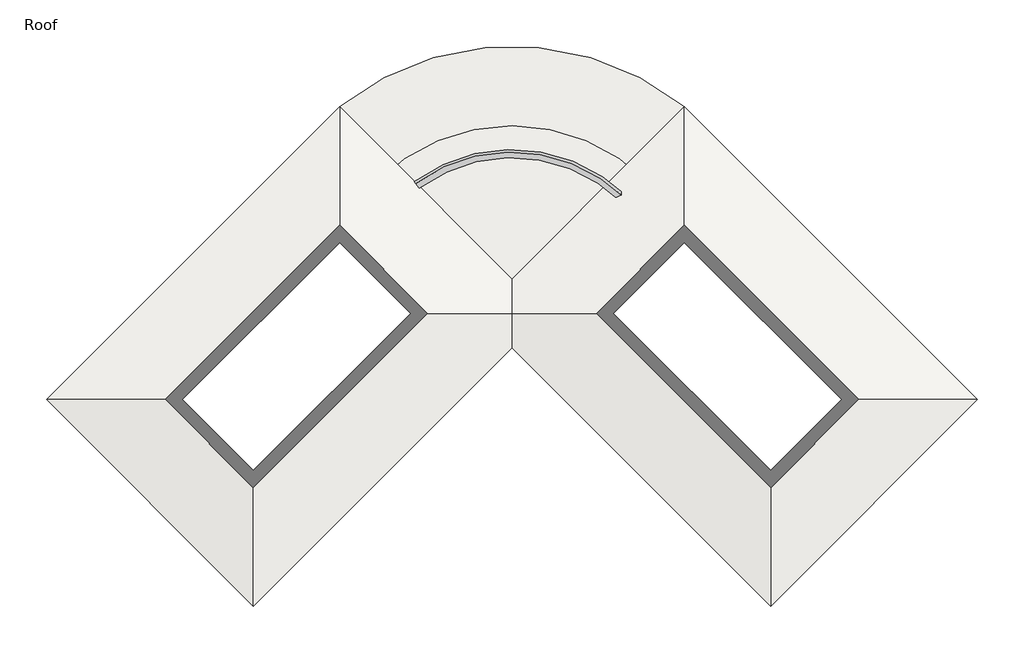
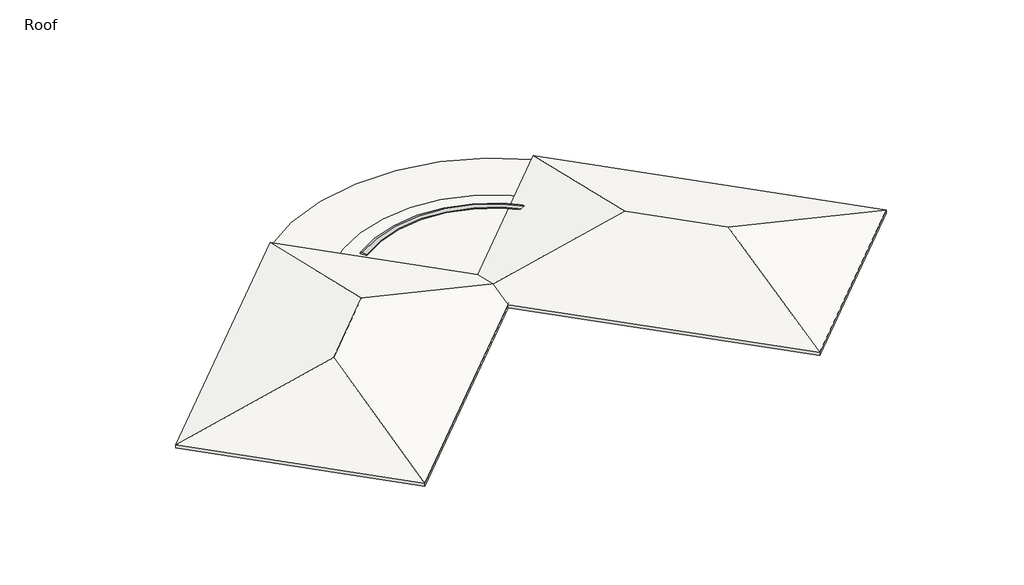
# One storey: 7 proxies, 4 roofs.
"""IFC4 building model written with IfcOpenShell, lengths in millimetres."""

import ifcopenshell
import ifcopenshell.guid

model = None  # the IFC model being written
_history = None  # IfcOwnerHistory: only IFC2X3 demands one
_inside = {}  # id of a spatial element -> (the spatial element, [elements in it])
_under = {}  # id of a project, library or spatial element -> (it, [spatial elements below it])
_declared = {}  # id of a project -> (the project, [libraries it declares])
_typed = {}  # id of a type object -> (the type object, [elements of that type])
_made_of = {}  # id of a material, layer set ... -> (it, [elements and type objects made of it])


def new_model(schema):
    """Start an empty IFC model of exactly this schema.

    Asked for "IFC4X3", IfcOpenShell would pick the latest addendum, in which some entities
    have other attributes; the version numbers below select the first issue.
    IFC2X3 requires an IfcOwnerHistory on every rooted entity: one is made here for all.
    """
    global model, _history
    if schema == "IFC4X3":
        model = ifcopenshell.file(schema_version=(4, 3, 0, 0))
    else:
        model = ifcopenshell.file(schema=schema)
    _inside.clear()
    _under.clear()
    _declared.clear()
    _typed.clear()
    _made_of.clear()
    _history = None
    if model.schema == "IFC2X3":
        org = make("IfcOrganization", Name="unknown")
        user = make(
            "IfcPersonAndOrganization",
            ThePerson=make("IfcPerson", FamilyName="unknown"),
            TheOrganization=org,
        )
        app = make(
            "IfcApplication",
            ApplicationDeveloper=org,
            Version="unknown",
            ApplicationFullName="unknown",
            ApplicationIdentifier="unknown",
        )
        _history = make(
            "IfcOwnerHistory",
            OwningUser=user,
            OwningApplication=app,
            ChangeAction="ADDED",
            CreationDate=0,
        )
    return model


def make(cls, **values):
    """One entity of the class cls with the attributes given. An attribute that is None is left unset."""
    return model.create_entity(
        cls, **{name: value for name, value in values.items() if value is not None}
    )


def rooted(cls, **values):
    """An entity with a GlobalId (a new one), such as an element, a storey or a relation."""
    return make(cls, GlobalId=ifcopenshell.guid.new(), OwnerHistory=_history, **values)


def si_unit(unit_type, name, prefix=None):
    """IfcSIUnit, for example si_unit("LENGTHUNIT", "METRE", prefix="MILLI")."""
    return make("IfcSIUnit", UnitType=unit_type, Prefix=prefix, Name=name)


def assignment(units):
    """IfcUnitAssignment: the units of a project."""
    return None if units is None else make("IfcUnitAssignment", Units=units)


def point(xyz):
    """IfcCartesianPoint."""
    return None if xyz is None else make("IfcCartesianPoint", Coordinates=xyz)


def direction(xyz):
    """IfcDirection."""
    return None if xyz is None else make("IfcDirection", DirectionRatios=xyz)


def frame(location, z_axis=None, x_axis=None):
    """IfcAxis2Placement3D, a coordinate frame: its origin and axes. An axis left out is left unset."""
    return make(
        "IfcAxis2Placement3D",
        Location=point(location),
        Axis=direction(z_axis),
        RefDirection=direction(x_axis),
    )


def frame_2d(location, x_axis=None):
    """IfcAxis2Placement2D, a coordinate frame in the plane: its origin and x axis."""
    return make(
        "IfcAxis2Placement2D", Location=point(location), RefDirection=direction(x_axis)
    )


def origin():
    """The frame at (0, 0, 0) with its axes left unset."""
    return frame((0.0, 0.0, 0.0))


def place(relative_to, where):
    """IfcLocalPlacement: puts the frame where relative to a parent placement (None: the world)."""
    return make(
        "IfcLocalPlacement", PlacementRelTo=relative_to, RelativePlacement=where
    )


def context(
    kind, dimensions, precision=None, world=None, true_north=None, identifier=None
):
    """IfcGeometricRepresentationContext, for example the 3D "Model" context."""
    return make(
        "IfcGeometricRepresentationContext",
        ContextIdentifier=identifier,
        ContextType=kind,
        CoordinateSpaceDimension=dimensions,
        Precision=precision,
        WorldCoordinateSystem=world,
        TrueNorth=true_north,
    )


def project(units=None, contexts=None):
    """IfcProject with its units and contexts."""
    return rooted(
        "IfcProject",
        Name="project",
        RepresentationContexts=contexts,
        UnitsInContext=assignment(units),
    )


def spatial(cls, under=None, at=None, **own):
    """A site, building, storey or space (cls), placed at a placement, below another one or the project."""
    s = rooted(cls, ObjectPlacement=at, **own)
    if under is not None:
        _under.setdefault(under.id(), (under, []))[1].append(s)
    return s


def polyline(points):
    """IfcPolyline through the points."""
    return make("IfcPolyline", Points=[point(p) for p in points])


def circle_curve(where, radius):
    """IfcCircle in the frame where."""
    return make("IfcCircle", Position=where, Radius=radius)


def trimmed(basis, trim1, trim2, sense, master):
    """IfcTrimmedCurve: the piece of a basis curve between two trims."""
    return make(
        "IfcTrimmedCurve",
        BasisCurve=basis,
        Trim1=trim1,
        Trim2=trim2,
        SenseAgreement=sense,
        MasterRepresentation=master,
    )


def segment(curve, same_sense, transition):
    """IfcCompositeCurveSegment."""
    return make(
        "IfcCompositeCurveSegment",
        Transition=transition,
        SameSense=same_sense,
        ParentCurve=curve,
    )


def composite_curve(segments, self_intersect=None):
    """IfcCompositeCurve: segments joined end to end."""
    return make("IfcCompositeCurve", Segments=segments, SelfIntersect=self_intersect)


def outline(outer, holes=None, kind="AREA"):
    """IfcArbitraryClosedProfileDef: a profile drawn as a closed curve; with holes, ...WithVoids."""
    if holes is None:
        return make("IfcArbitraryClosedProfileDef", ProfileType=kind, OuterCurve=outer)
    return make(
        "IfcArbitraryProfileDefWithVoids",
        ProfileType=kind,
        OuterCurve=outer,
        InnerCurves=holes,
    )


def extrude(swept, where, along, depth):
    """IfcExtrudedAreaSolid: the profile swept, set in the frame where, extruded along a direction by depth."""
    return make(
        "IfcExtrudedAreaSolid",
        SweptArea=swept,
        Position=where,
        ExtrudedDirection=direction(along),
        Depth=depth,
    )


def faces_of(points, faces, orient=None, outer=None):
    """IfcFace entities. A face is a list of loops; a loop is a list of indices into points, from 0.

    orient and outer hold one flag for each loop. By default every Orientation is true, the
    first loop of a face is its IfcFaceOuterBound and the others are IfcFaceBound.
    """
    made = []
    for i, loops in enumerate(faces):
        bounds = []
        for j, loop in enumerate(loops):
            is_outer = j == 0 if outer is None else outer[i][j]
            bounds.append(
                make(
                    "IfcFaceOuterBound" if is_outer else "IfcFaceBound",
                    Bound=make("IfcPolyLoop", Polygon=[points[k] for k in loop]),
                    Orientation=True if orient is None else orient[i][j],
                )
            )
        made.append(make("IfcFace", Bounds=bounds))
    return made


def faceted_brep(points, faces, orient=None, outer=None, voids=None):
    """IfcFacetedBrep: a solid bounded by flat faces; with voids (closed shells), ...WithVoids."""
    shared = [point(p) for p in points]
    hull = make("IfcClosedShell", CfsFaces=faces_of(shared, faces, orient, outer))
    if voids is None:
        return make("IfcFacetedBrep", Outer=hull)
    return make(
        "IfcFacetedBrepWithVoids",
        Outer=hull,
        Voids=[
            make(cls, CfsFaces=faces_of(shared, fs, o, b)) for cls, fs, o, b in voids
        ],
    )


def shape(context_of_items, identifier, shape_type, items):
    """IfcShapeRepresentation: the items that make up one representation, for example the "Body"."""
    return make(
        "IfcShapeRepresentation",
        ContextOfItems=context_of_items,
        RepresentationIdentifier=identifier,
        RepresentationType=shape_type,
        Items=items,
    )


def made_of(thing, what):
    """Note that an element or type object is made of a material, layer set ...; save() writes the relation."""
    if what is not None:
        _made_of.setdefault(what.id(), (what, []))[1].append(thing)
    return thing


def element(
    cls,
    number,
    at=None,
    inside=None,
    cuts=None,
    type_object=None,
    material=None,
    context=None,
    identifier="Body",
    shape_type=None,
    held_by="IfcProductDefinitionShape",
    body=None,
    shapes=None,
    **own,
):
    """One element of the class cls, such as IfcWall. Its Tag is "e" and its number.

    at: its placement. inside: the storey or other place that contains it. cuts: it is an
    opening in that element (IfcRelVoidsElement). A single representation is given by context,
    identifier, shape_type and body (its items); several are given by shapes. held_by: the class
    of the entity that holds the representations. save() writes the other relations.
    """
    e = rooted(cls, Tag="e%d" % number, ObjectPlacement=at, **own)
    if body is not None:
        shapes = [shape(context, identifier, shape_type, body)]
    if shapes is not None:
        e.Representation = make(held_by, Representations=shapes)
    if inside is not None:
        _inside.setdefault(inside.id(), (inside, []))[1].append(e)
    if cuts is not None:
        rooted(
            "IfcRelVoidsElement", RelatingBuildingElement=cuts, RelatedOpeningElement=e
        )
    if type_object is not None:
        _typed.setdefault(type_object.id(), (type_object, []))[1].append(e)
    return made_of(e, material)


def aggregate(whole, parts):
    """IfcRelAggregates: a whole, such as a stair, and the parts it consists of."""
    return rooted("IfcRelAggregates", RelatingObject=whole, RelatedObjects=parts)


def save(model, path):
    """Write the relations noted so far, then the file.

    IfcRelAggregates (storeys below a building ...), IfcRelContainedInSpatialStructure (elements
    in a storey), IfcRelDefinesByType, IfcRelAssociatesMaterial and IfcRelDeclares: one each for
    every whole, place, type object, material and project.
    """
    for whole, parts in _under.values():
        aggregate(whole, parts)
    for where, things in _inside.values():
        rooted(
            "IfcRelContainedInSpatialStructure",
            RelatedElements=things,
            RelatingStructure=where,
        )
    for kind, things in _typed.values():
        rooted("IfcRelDefinesByType", RelatedObjects=things, RelatingType=kind)
    for what, things in _made_of.values():
        rooted("IfcRelAssociatesMaterial", RelatedObjects=things, RelatingMaterial=what)
    for by, libraries in _declared.values():
        rooted("IfcRelDeclares", RelatingContext=by, RelatedDefinitions=libraries)
    model.write(path)


def plane_surface(at):
    """IfcPlane: the flat surface through the origin of the frame at, square to its z axis."""
    return make("IfcPlane", Position=at)


def cylinder_surface(at, radius):
    """IfcCylindricalSurface: all points at the distance radius from the z axis of the frame at."""
    return make("IfcCylindricalSurface", Position=at, Radius=radius)


def revolved_surface(curve, axis_point, axis_direction):
    """IfcSurfaceOfRevolution: the curve turned about the line through axis_point along axis_direction."""
    return make(
        "IfcSurfaceOfRevolution",
        SweptCurve=make("IfcArbitraryOpenProfileDef", ProfileType="CURVE", Curve=curve),
        AxisPosition=make("IfcAxis1Placement", Location=point(axis_point), Axis=direction(axis_direction)),
    )


def advanced_brep(points, edges, surfaces, faces):
    """IfcAdvancedBrep: a solid bounded by faces that lie on surfaces and meet in shared edges.

    An edge is (start, end): straight between two places in points (the first is 0);
    or (start, end, curve); or (start, end, curve, False) where it runs against its curve.
    A face is (place in surfaces, loops), or (place, loops, False) where it looks against
    its surface's normal. A loop lists edges by number (the first is 1), with a minus sign
    where the edge is run from its end to its start. The first loop is the outer one.
    """
    corners = [point(p) for p in points]
    vertices = [make("IfcVertexPoint", VertexGeometry=c) for c in corners]
    made = []
    for start, end, *more in edges:
        made.append(
            make(
                "IfcEdgeCurve",
                EdgeStart=vertices[start],
                EdgeEnd=vertices[end],
                EdgeGeometry=more[0] if more else make("IfcPolyline", Points=[corners[start], corners[end]]),
                SameSense=more[1] if len(more) > 1 else True,
            )
        )
    hull = []
    for where, loops, *sense in faces:
        bounds = []
        for j, loop in enumerate(loops):
            ring = [make("IfcOrientedEdge", EdgeElement=made[abs(k) - 1], Orientation=k > 0) for k in loop]
            bounds.append(
                make(
                    "IfcFaceOuterBound" if j == 0 else "IfcFaceBound",
                    Bound=make("IfcEdgeLoop", EdgeList=ring),
                    Orientation=True,
                )
            )
        hull.append(make("IfcAdvancedFace", Bounds=bounds, FaceSurface=surfaces[where], SameSense=sense[0] if sense else True))
    return make("IfcAdvancedBrep", Outer=make("IfcClosedShell", CfsFaces=hull))


model = new_model("IFC4")

# Units and contexts
model_context = context("Model", 3, world=origin())
ifc_project = project(units=[si_unit("LENGTHUNIT", "METRE", prefix="MILLI")], contexts=[model_context])

# Site, building, storey
site = spatial("IfcSite", under=ifc_project)
building = spatial("IfcBuilding", under=site)
storey = spatial("IfcBuildingStorey", under=building, Name="Roof", Elevation=4572.0)

# Proxies
placement = place(None, origin())
element("IfcBuildingElementProxy", 1, Name="Wall Sweeps", at=placement, inside=storey, context=model_context, shape_type="Brep", body=[
    faceted_brep([(4057.9485283, 9339.6949534, 4635.5), (3860.3828937, 9537.2605881, 4673.6), (3770.5803325, 9627.0631493, 4635.5), (3770.5803325, 9627.0631493, 4572.0), (4057.9485283, 9339.6949534, 4572.0), (5753.0175119, 11034.763937, 4635.5), (5753.0175119, 11034.763937, 4572.0), (5753.0175119, 11609.5003287, 4572.0), (5753.0175119, 11609.5003287, 4635.5), (5753.0175119, 11429.8952063, 4673.6)], [[[0, 1, 2, 3, 4]], [[5, 6, 7, 8, 9]], [[1, 0, 5, 9]], [[2, 1, 9, 8]], [[3, 2, 8, 7]], [[4, 3, 7, 6]], [[0, 4, 6, 5]]]),
])
element("IfcBuildingElementProxy", 2, Name="Wall Sweeps", at=placement, inside=storey, context=model_context, shape_type="Brep", body=[
    faceted_brep([(5753.0175119, 11034.763937, 4635.5), (5753.0175119, 11429.8952063, 4673.6), (5753.0175119, 11609.5003287, 4635.5), (5753.0175119, 11609.5003287, 4572.0), (5753.0175119, 11034.763937, 4572.0), (18145.770959, -1357.9895101, 4635.5), (18145.770959, -1357.9895101, 4572.0), (18720.5073507, -1357.9895101, 4572.0), (18720.5073507, -1357.9895101, 4635.5), (18540.9022283, -1357.9895101, 4673.6)], [[[0, 1, 2, 3, 4]], [[5, 6, 7, 8, 9]], [[1, 0, 5, 9]], [[2, 1, 9, 8]], [[3, 2, 8, 7]], [[4, 3, 7, 6]], [[0, 4, 6, 5]]]),
])
element("IfcBuildingElementProxy", 3, Name="Wall Sweeps", at=placement, inside=storey, context=model_context, shape_type="Brep", body=[
    faceted_brep([(18145.770959, -1357.9895101, 4635.5), (18540.9022283, -1357.9895101, 4673.6), (18720.5073507, -1357.9895101, 4635.5), (18720.5073507, -1357.9895101, 4572.0), (18145.770959, -1357.9895101, 4572.0), (9918.7338201, -9585.026649, 4635.5), (9918.7338201, -9585.026649, 4572.0), (9938.9393964, -9605.2322253, 4572.0), (10188.1415037, -9854.4343326, 4572.0), (10206.102016, -9872.3948449, 4572.0), (10206.102016, -9872.3948449, 4635.5), (10116.2994547, -9782.5922837, 4673.6)], [[[0, 1, 2, 3, 4]], [[5, 6, 7, 8, 9, 10, 11]], [[1, 0, 5, 11]], [[2, 1, 11, 10]], [[3, 2, 10, 9]], [[4, 3, 9, 8, 7, 6]], [[0, 4, 6, 5]]]),
])
element("IfcBuildingElementProxy", 4, Name="Wall Sweeps", at=placement, inside=storey, context=model_context, shape_type="Brep", body=[
    faceted_brep([(-15654.7905487, -9585.026649, 4635.5), (-15852.3561834, -9782.5922837, 4673.6), (-15942.1587446, -9872.3948449, 4635.5), (-15942.1587446, -9872.3948449, 4572.0), (-15924.1982323, -9854.4343326, 4572.0), (-15674.996125, -9605.2322253, 4572.0), (-15654.7905487, -9585.026649, 4572.0), (-23881.8276876, -1357.9895101, 4635.5), (-23881.8276876, -1357.9895101, 4572.0), (-24456.5640794, -1357.9895101, 4572.0), (-24456.5640794, -1357.9895101, 4635.5), (-24276.9589569, -1357.9895101, 4673.6)], [[[0, 1, 2, 3, 4, 5, 6]], [[7, 8, 9, 10, 11]], [[1, 0, 7, 11]], [[2, 1, 11, 10]], [[3, 2, 10, 9]], [[6, 5, 4, 3, 9, 8]], [[0, 6, 8, 7]]]),
])
element("IfcBuildingElementProxy", 5, Name="Wall Sweeps", at=placement, inside=storey, context=model_context, shape_type="Brep", body=[
    faceted_brep([(-23881.8276876, -1357.9895101, 4635.5), (-24276.9589569, -1357.9895101, 4673.6), (-24456.5640794, -1357.9895101, 4635.5), (-24456.5640794, -1357.9895101, 4572.0), (-23881.8276876, -1357.9895101, 4572.0), (-11489.0742405, 11034.763937, 4635.5), (-11489.0742405, 11034.763937, 4572.0), (-11489.0742405, 11609.5003287, 4572.0), (-11489.0742405, 11609.5003287, 4635.5), (-11489.0742405, 11429.8952063, 4673.6)], [[[0, 1, 2, 3, 4]], [[5, 6, 7, 8, 9]], [[1, 0, 5, 9]], [[2, 1, 9, 8]], [[3, 2, 8, 7]], [[4, 3, 7, 6]], [[0, 4, 6, 5]]]),
])
element("IfcBuildingElementProxy", 6, Name="Wall Sweeps", at=placement, inside=storey, context=model_context, shape_type="Brep", body=[
    faceted_brep([(-11489.0742405, 11034.763937, 4635.5), (-11489.0742405, 11429.8952063, 4673.6), (-11489.0742405, 11609.5003287, 4635.5), (-11489.0742405, 11609.5003287, 4572.0), (-11489.0742405, 11034.763937, 4572.0), (-8931.8939077, 8477.5836041, 4635.5), (-8931.8939077, 8477.5836041, 4572.0), (-8911.6883314, 8497.7891804, 4572.0), (-8662.486224, 8746.9912878, 4572.0), (-8644.5257118, 8764.9518, 4572.0), (-8644.5257118, 8764.9518, 4635.5), (-8734.328273, 8675.1492388, 4673.6), (-8836.2976328, 8573.179879, 4653.9354839), (-8911.6883314, 8497.7891804, 4639.3965909)], [[[0, 1, 2, 3, 4]], [[5, 6, 7, 8, 9, 10, 11, 12, 13]], [[1, 0, 5, 13, 12, 11]], [[2, 1, 11, 10]], [[3, 2, 10, 9]], [[4, 3, 9, 8, 7, 6]], [[0, 4, 6, 5]]]),
])
element("IfcBuildingElementProxy", 7, Name="Wall Sweeps", at=placement, inside=storey, context=model_context, shape_type="AdvancedBrep", body=[
    advanced_brep(
    [(-7507.26102, 9233.8641208, 4635.5), (-7672.4116971, 9459.2296325, 4673.6), (-7747.4801867, 9561.6685015, 4635.5), (-7747.4801867, 9561.6685015, 4572.0), (-7507.26102, 9233.8641208, 4572.0), (2658.1675575, 8476.4427105, 4635.5), (2658.1675575, 8476.4427105, 4572.0), (2944.3136246, 8765.0278596, 4572.0), (2944.3136246, 8765.0278596, 4635.5), (2854.8929786, 8674.8450005, 4673.6)],
    [
        (0, 1),
        (1, 2),
        (2, 3),
        (3, 4),
        (4, 0),
        (5, 6),
        (6, 7),
        (7, 8),
        (8, 9),
        (9, 5),
        (9, 1, circle_curve(frame((-2868.0283643, 2903.1420194, 4673.6), z_axis=(0.0, 0.0, 1.0), x_axis=(-0.591090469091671, 0.8066052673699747, 0.0)), 8128.0)),
        (0, 5, circle_curve(frame((-2868.0283643, 2903.1420194, 4635.5), z_axis=(0.0, 0.0, -1.0), x_axis=(-0.591090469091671, 0.8066052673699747, 0.0)), 7848.6)),
        (8, 2, circle_curve(frame((-2868.0283643, 2903.1420194, 4635.5), z_axis=(0.0, 0.0, 1.0), x_axis=(-0.591090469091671, 0.8066052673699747, 0.0)), 8255.0)),
        (7, 3, circle_curve(frame((-2868.0283643, 2903.1420194, 4572.0), z_axis=(0.0, 0.0, 1.0), x_axis=(-0.591090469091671, 0.8066052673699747, 0.0)), 8255.0)),
        (6, 4, circle_curve(frame((-2868.0283643, 2903.1420194, 4572.0), z_axis=(0.0, 0.0, 1.0), x_axis=(-0.591090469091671, 0.8066052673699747, 0.0)), 7848.6)),
    ],
    [
        plane_surface(frame((-2868.0283643, 2903.1420194, 4572.0), z_axis=(-0.8066052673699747, -0.591090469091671, 0.0), x_axis=(-0.591090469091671, 0.8066052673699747, 0.0))),
        plane_surface(frame((-2868.0283643, 2903.1420194, 4572.0), z_axis=(0.7101012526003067, -0.704099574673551, 0.0), x_axis=(0.704099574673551, 0.7101012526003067, 0.0))),
        revolved_surface(polyline([(-7507.26102, 9233.8641208, 4635.5), (-7672.4116971, 9459.2296325, 4673.6)]), (-2868.0283643, 2903.1420194, 4572.0), (0.0, 0.0, -1.0)),
        revolved_surface(polyline([(-7672.4116971, 9459.2296325, 4673.6), (-7747.4801867, 9561.6685015, 4635.5)]), (-2868.0283643, 2903.1420194, 4572.0), (0.0, 0.0, -1.0)),
        cylinder_surface(frame((-2868.0283643, 2903.1420194, 4572.0), z_axis=(0.0, 0.0, -1.0), x_axis=(-0.591090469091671, 0.8066052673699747, 0.0)), 8255.0),
        plane_surface(frame((-2868.0283643, 2903.1420194, 4572.0), z_axis=(0.0, 0.0, -1.0), x_axis=(-0.591090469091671, 0.8066052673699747, 0.0))),
        revolved_surface(polyline([(-7507.261020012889, 9233.864120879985, 4572.0), (-7507.261020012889, 9233.864120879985, 4635.5)]), (-2868.0283643, 2903.1420194, 4572.0), (0.0, 0.0, -1.0)),
    ],
    [
        (0, [[1, 2, 3, 4, 5]]),
        (1, [[6, 7, 8, 9, 10]]),
        (2, [[11, -1, 12, -10]]),
        (3, [[13, -2, -11, -9]]),
        (4, [[14, -3, -13, -8]]),
        (5, [[15, -4, -14, -7]]),
        (6, [[-12, -5, -15, -6]]),
    ],
),
])

# Roofs
element("IfcRoof", 8, ObjectType="Insulation on Metal Deck - EPDM", at=placement, inside=storey, context=model_context, shape_type="Brep", body=[
    faceted_brep([(-11489.0742405, 2952.533428, 6604.0), (-11489.0742405, 13297.7884795, 4165.6), (-1143.8191891, 2952.533428, 4165.6), (-26144.8522301, -1357.9895101, 4165.6), (-15799.5971786, -1357.9895101, 6604.0), (-15799.5971786, -11703.2445616, 4165.6), (-11489.0742405, 13297.7884795, 4373.0981191), (-11489.0742405, 2952.533428, 6811.4981191), (-1143.8191891, 2952.533428, 4373.0981191), (-26144.8522301, -1357.9895101, 4373.0981191), (-15799.5971786, -11703.2445616, 4373.0981191), (-15799.5971786, -1357.9895101, 6811.4981191)], [[[0, 1, 2]], [[3, 4, 5]], [[1, 0, 4, 3]], [[5, 4, 0, 2]], [[6, 7, 8]], [[9, 10, 11]], [[6, 9, 11, 7]], [[10, 8, 7, 11]], [[3, 9, 6, 1]], [[5, 10, 9, 3]], [[2, 8, 10, 5]], [[1, 6, 8, 2]]]),
])
element("IfcRoof", 9, ObjectType="Insulation on Metal Deck - EPDM", at=placement, inside=storey, context=model_context, shape_type="SweptSolid", body=[
    extrude(outline(composite_curve([segment(trimmed(circle_curve(frame_2d((-2868.0283643, 2903.1420194)), 9448.8), [point((-9665.5266036, 9466.2083094))], [point((3929.469875, 9466.2083094))], False, "CARTESIAN"), True, "CONTINUOUS"), segment(polyline([(3929.469875, 9466.2083094), (-2868.0283643, 2668.7100701), (-9665.5266036, 9466.2083094)]), True, "CONTINUOUS")], self_intersect=False)), frame((0.0, 0.0, 4165.6), z_axis=(0.0, 0.0, 1.0), x_axis=(1.0, 0.0, 0.0)), (0.0, 0.0, 1.0), 196.85),
])
element("IfcRoof", 10, ObjectType="Insulation on Metal Deck - EPDM", at=placement, inside=storey, context=model_context, shape_type="Brep", body=[
    faceted_brep([(5753.0175119, 2952.533428, 6604.0), (5753.0175119, 13297.7884795, 4165.6), (20408.7955015, -1357.9895101, 4165.6), (10063.54045, -1357.9895101, 6604.0), (-4592.2375396, 2952.533428, 4165.6), (10063.54045, -11703.2445616, 4165.6), (5753.0175119, 13297.7884795, 4373.0981191), (5753.0175119, 2952.533428, 6811.4981191), (10063.54045, -1357.9895101, 6811.4981191), (20408.7955015, -1357.9895101, 4373.0981191), (-4592.2375396, 2952.533428, 4373.0981191), (10063.54045, -11703.2445616, 4373.0981191)], [[[0, 1, 2, 3]], [[1, 0, 4]], [[5, 3, 2]], [[4, 0, 3, 5]], [[6, 7, 8, 9]], [[6, 10, 7]], [[11, 9, 8]], [[10, 11, 8, 7]], [[4, 10, 6, 1]], [[5, 11, 10, 4]], [[2, 9, 11, 5]], [[1, 6, 9, 2]]]),
])
element("IfcRoof", 11, ObjectType="Insulation on Metal Deck - EPDM", at=placement, inside=storey, context=model_context, shape_type="SweptSolid", body=[
    extrude(outline(composite_curve([segment(trimmed(circle_curve(frame_2d((-2868.0283643, 2486.3234307)), 13827.8779465), [point((-11489.0742405, 13297.7884795))], [point((5753.0175119, 13297.7884795))], False, "CARTESIAN"), True, "CONTINUOUS"), segment(polyline([(5753.0175119, 13297.7884795), (-2868.0283643, 4676.7426033), (-11489.0742405, 13297.7884795)]), True, "CONTINUOUS")], self_intersect=False)), frame((0.0, 0.0, 3911.6), z_axis=(0.0, 0.0, 1.0), x_axis=(1.0, 0.0, 0.0)), (0.0, 0.0, 1.0), 196.85),
])

save(model, "model.ifc")
